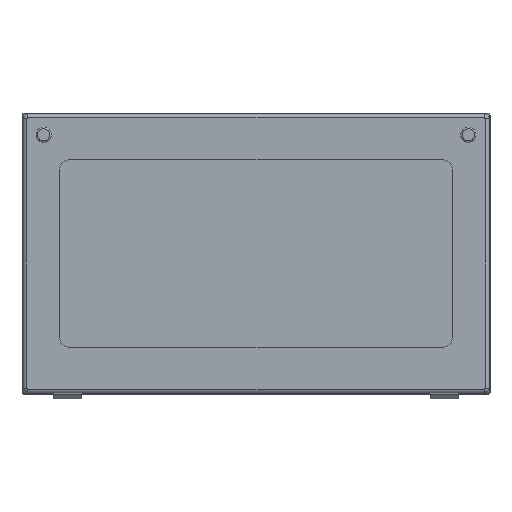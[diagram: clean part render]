
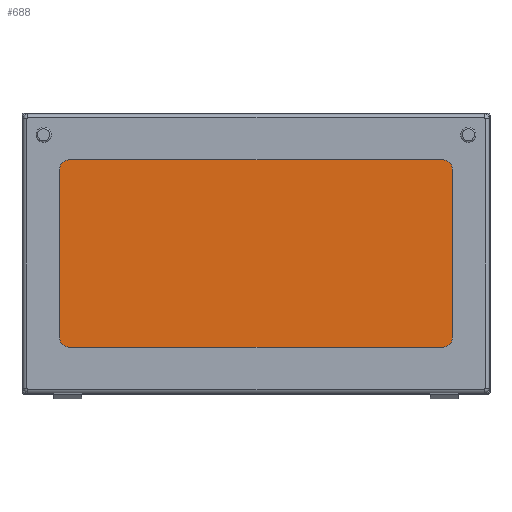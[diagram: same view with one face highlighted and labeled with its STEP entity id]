
A CAD part, top view. The second image highlights one B-rep face of the part: STEP entity #688.
In plain terms, the highlighted planar face has unit normal (0, 0, 1).
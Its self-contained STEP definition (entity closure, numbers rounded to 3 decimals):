
#52 = DIRECTION ( 'NONE',  ( -1., 0., 0. ) ) ;
#74 = FACE_OUTER_BOUND ( 'NONE', #7532, .T. ) ;
#87 = ORIENTED_EDGE ( 'NONE', *, *, #328, .T. ) ;
#99 = CIRCLE ( 'NONE', #5090, 10. ) ;
#211 = VERTEX_POINT ( 'NONE', #6401 ) ;
#293 = CARTESIAN_POINT ( 'NONE',  ( 210., -90., -1.2 ) ) ;
#328 = EDGE_CURVE ( 'NONE', #5494, #5990, #2052, .T. ) ;
#367 = DIRECTION ( 'NONE',  ( 0., 1., 0. ) ) ;
#374 = VECTOR ( 'NONE', #367, 1000. ) ;
#688 = ADVANCED_FACE ( 'NONE', ( #74 ), #2804, .T. ) ;
#897 = AXIS2_PLACEMENT_3D ( 'NONE', #7582, #6922, #52 ) ;
#1109 = VERTEX_POINT ( 'NONE', #3169 ) ;
#1126 = ORIENTED_EDGE ( 'NONE', *, *, #6346, .T. ) ;
#1143 = DIRECTION ( 'NONE',  ( 1., 0., 0. ) ) ;
#1265 = VERTEX_POINT ( 'NONE', #1533 ) ;
#1462 = DIRECTION ( 'NONE',  ( 0., 0., 1. ) ) ;
#1533 = CARTESIAN_POINT ( 'NONE',  ( 200., -100., -1.2 ) ) ;
#1843 = VECTOR ( 'NONE', #3883, 1000. ) ;
#1946 = CARTESIAN_POINT ( 'NONE',  ( -200., -100., -1.2 ) ) ;
#2052 = CIRCLE ( 'NONE', #897, 10. ) ;
#2194 = AXIS2_PLACEMENT_3D ( 'NONE', #8220, #1462, #4349 ) ;
#2303 = CARTESIAN_POINT ( 'NONE',  ( 200., 100., -1.2 ) ) ;
#2419 = VECTOR ( 'NONE', #1143, 1000. ) ;
#2436 = DIRECTION ( 'NONE',  ( -1., 0., 0. ) ) ;
#2459 = AXIS2_PLACEMENT_3D ( 'NONE', #7145, #8303, #8354 ) ;
#2701 = CARTESIAN_POINT ( 'NONE',  ( 210., 90., -1.2 ) ) ;
#2763 = CARTESIAN_POINT ( 'NONE',  ( 200., 90., -1.2 ) ) ;
#2804 = PLANE ( 'NONE',  #2194 ) ;
#2861 = ORIENTED_EDGE ( 'NONE', *, *, #3961, .T. ) ;
#3169 = CARTESIAN_POINT ( 'NONE',  ( -210., 90., -1.2 ) ) ;
#3395 = EDGE_CURVE ( 'NONE', #7661, #8763, #8431, .T. ) ;
#3662 = EDGE_CURVE ( 'NONE', #211, #1109, #7912, .T. ) ;
#3883 = DIRECTION ( 'NONE',  ( 0., -1., 0. ) ) ;
#3961 = EDGE_CURVE ( 'NONE', #8763, #8070, #99, .T. ) ;
#3968 = ORIENTED_EDGE ( 'NONE', *, *, #4149, .T. ) ;
#4037 = ORIENTED_EDGE ( 'NONE', *, *, #3662, .T. ) ;
#4079 = AXIS2_PLACEMENT_3D ( 'NONE', #8613, #7857, #2436 ) ;
#4149 = EDGE_CURVE ( 'NONE', #8070, #211, #8314, .T. ) ;
#4219 = ORIENTED_EDGE ( 'NONE', *, *, #6677, .T. ) ;
#4349 = DIRECTION ( 'NONE',  ( 1., 0., 0. ) ) ;
#4380 = CARTESIAN_POINT ( 'NONE',  ( 210., -90., -1.2 ) ) ;
#4603 = VECTOR ( 'NONE', #6408, 1000. ) ;
#4639 = LINE ( 'NONE', #8646, #1843 ) ;
#5090 = AXIS2_PLACEMENT_3D ( 'NONE', #2763, #8179, #6769 ) ;
#5160 = LINE ( 'NONE', #6582, #2419 ) ;
#5494 = VERTEX_POINT ( 'NONE', #6757 ) ;
#5726 = ORIENTED_EDGE ( 'NONE', *, *, #3395, .T. ) ;
#5791 = CARTESIAN_POINT ( 'NONE',  ( -200., 100., -1.2 ) ) ;
#5990 = VERTEX_POINT ( 'NONE', #1946 ) ;
#6346 = EDGE_CURVE ( 'NONE', #1109, #5494, #4639, .T. ) ;
#6401 = CARTESIAN_POINT ( 'NONE',  ( -200., 100., -1.2 ) ) ;
#6408 = DIRECTION ( 'NONE',  ( -1., 0., 0. ) ) ;
#6582 = CARTESIAN_POINT ( 'NONE',  ( -200., -100., -1.2 ) ) ;
#6677 = EDGE_CURVE ( 'NONE', #5990, #1265, #5160, .T. ) ;
#6757 = CARTESIAN_POINT ( 'NONE',  ( -210., -90., -1.2 ) ) ;
#6769 = DIRECTION ( 'NONE',  ( -1., 0., 0. ) ) ;
#6922 = DIRECTION ( 'NONE',  ( 0., 0., 1. ) ) ;
#7145 = CARTESIAN_POINT ( 'NONE',  ( 200., -90., -1.2 ) ) ;
#7532 = EDGE_LOOP ( 'NONE', ( #2861, #3968, #4037, #1126, #87, #4219, #8812, #5726 ) ) ;
#7569 = CIRCLE ( 'NONE', #2459, 10. ) ;
#7582 = CARTESIAN_POINT ( 'NONE',  ( -200., -90., -1.2 ) ) ;
#7661 = VERTEX_POINT ( 'NONE', #293 ) ;
#7695 = EDGE_CURVE ( 'NONE', #1265, #7661, #7569, .T. ) ;
#7857 = DIRECTION ( 'NONE',  ( 0., 0., 1. ) ) ;
#7912 = CIRCLE ( 'NONE', #4079, 10. ) ;
#8070 = VERTEX_POINT ( 'NONE', #2303 ) ;
#8179 = DIRECTION ( 'NONE',  ( 0., 0., 1. ) ) ;
#8220 = CARTESIAN_POINT ( 'NONE',  ( 0., 0., -1.2 ) ) ;
#8303 = DIRECTION ( 'NONE',  ( 0., 0., 1. ) ) ;
#8314 = LINE ( 'NONE', #5791, #4603 ) ;
#8354 = DIRECTION ( 'NONE',  ( -1., 0., 0. ) ) ;
#8431 = LINE ( 'NONE', #4380, #374 ) ;
#8613 = CARTESIAN_POINT ( 'NONE',  ( -200., 90., -1.2 ) ) ;
#8646 = CARTESIAN_POINT ( 'NONE',  ( -210., -90., -1.2 ) ) ;
#8763 = VERTEX_POINT ( 'NONE', #2701 ) ;
#8812 = ORIENTED_EDGE ( 'NONE', *, *, #7695, .T. ) ;
